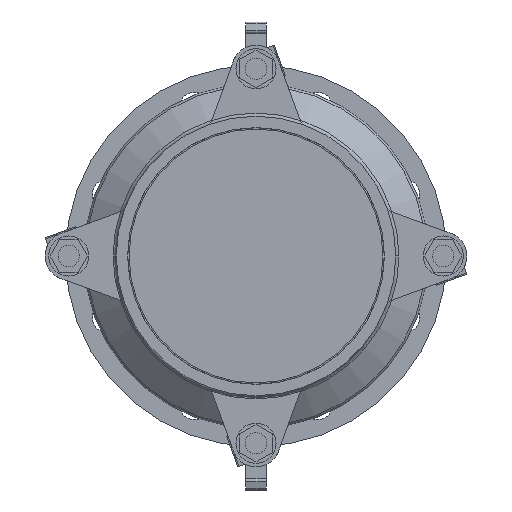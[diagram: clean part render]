
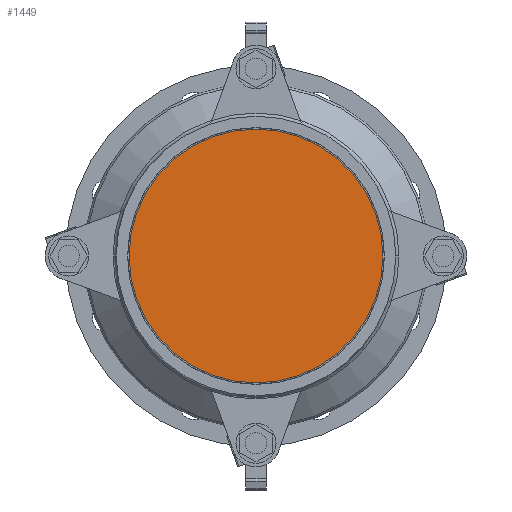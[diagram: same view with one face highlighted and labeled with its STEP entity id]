
A CAD part, left-side view. The second image highlights one B-rep face of the part: STEP entity #1449.
In plain terms, the highlighted planar face has unit normal (-1, 0, 0).
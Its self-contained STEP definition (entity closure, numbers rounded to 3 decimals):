
#1449=ADVANCED_FACE('',(#2715),#2716,.T.);
#2715=FACE_OUTER_BOUND('',#4122,.T.);
#2716=PLANE('',#4123);
#4122=EDGE_LOOP('',(#6735,#6736));
#4123=AXIS2_PLACEMENT_3D('',#6737,#6738,#6739);
#6735=ORIENTED_EDGE('',*,*,#7712,.T.);
#6736=ORIENTED_EDGE('',*,*,#8577,.T.);
#6737=CARTESIAN_POINT('',(-67.5,0.0,0.0));
#6738=DIRECTION('',(-1.0,0.0,0.));
#6739=DIRECTION('',(0.,0.0,1.0));
#7712=EDGE_CURVE('',#9064,#9069,#9071,.T.);
#8577=EDGE_CURVE('',#9069,#9064,#10324,.T.);
#9064=VERTEX_POINT('',#10920);
#9069=VERTEX_POINT('',#10926);
#9071=CIRCLE('',#10929,105.0);
#10324=CIRCLE('',#12582,105.0);
#10920=CARTESIAN_POINT('',(-67.5,0.0,-105.0));
#10926=CARTESIAN_POINT('',(-67.5,0.,105.0));
#10929=AXIS2_PLACEMENT_3D('',#13030,#13031,#13032);
#12582=AXIS2_PLACEMENT_3D('',#14042,#14043,#14044);
#13030=CARTESIAN_POINT('',(-67.5,0.0,0.0));
#13031=DIRECTION('',(-1.0,0.0,0.));
#13032=DIRECTION('',(0.,0.0,-1.0));
#14042=CARTESIAN_POINT('',(-67.5,0.0,0.0));
#14043=DIRECTION('',(-1.0,0.0,0.));
#14044=DIRECTION('',(0.,0.0,-1.0));
